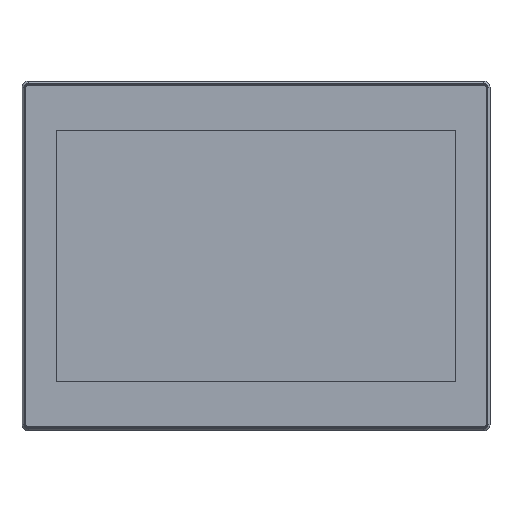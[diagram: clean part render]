
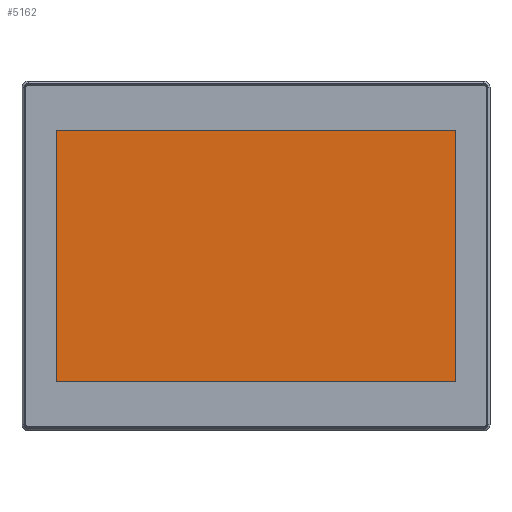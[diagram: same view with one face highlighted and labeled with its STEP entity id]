
A CAD part, top view. The second image highlights one B-rep face of the part: STEP entity #5162.
In plain terms, the highlighted planar face has unit normal (0, 0, 1).
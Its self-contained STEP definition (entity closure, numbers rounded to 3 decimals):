
#5162=ADVANCED_FACE('',(#9222),#6945,.T.);
#6945=PLANE('',#51647);
#9222=FACE_OUTER_BOUND('',#12006,.T.);
#12006=EDGE_LOOP('',(#24189,#24190,#24191,#24192));
#24189=ORIENTED_EDGE('',*,*,#38268,.T.);
#24190=ORIENTED_EDGE('',*,*,#38269,.T.);
#24191=ORIENTED_EDGE('',*,*,#38270,.T.);
#24192=ORIENTED_EDGE('',*,*,#38271,.T.);
#31886=VERTEX_POINT('',#91338);
#31887=VERTEX_POINT('',#91339);
#31888=VERTEX_POINT('',#91341);
#31889=VERTEX_POINT('',#91343);
#38268=EDGE_CURVE('',#31886,#31887,#43285,.T.);
#38269=EDGE_CURVE('',#31887,#31888,#43286,.T.);
#38270=EDGE_CURVE('',#31888,#31889,#43287,.T.);
#38271=EDGE_CURVE('',#31889,#31886,#43288,.T.);
#43285=LINE('',#91337,#47726);
#43286=LINE('',#91340,#47727);
#43287=LINE('',#91342,#47728);
#43288=LINE('',#91344,#47729);
#47726=VECTOR('',#61287,1.);
#47727=VECTOR('',#61288,1.);
#47728=VECTOR('',#61289,1.);
#47729=VECTOR('',#61290,1.);
#51647=AXIS2_PLACEMENT_3D('',#91345,#61291,#61292);
#61287=DIRECTION('',(0.,-1.,0.));
#61288=DIRECTION('',(1.,0.,0.));
#61289=DIRECTION('',(0.,1.,0.));
#61290=DIRECTION('',(-1.,0.,0.));
#61291=DIRECTION('',(0.,0.,1.));
#61292=DIRECTION('',(-1.,0.,0.));
#91337=CARTESIAN_POINT('',(22.54,197.85,64.125));
#91338=CARTESIAN_POINT('',(22.54,197.85,64.125));
#91339=CARTESIAN_POINT('',(22.54,32.65,64.125));
#91340=CARTESIAN_POINT('',(22.54,32.65,64.125));
#91341=CARTESIAN_POINT('',(285.96,32.65,64.125));
#91342=CARTESIAN_POINT('',(285.96,197.85,64.125));
#91343=CARTESIAN_POINT('',(285.96,197.85,64.125));
#91344=CARTESIAN_POINT('',(22.54,197.85,64.125));
#91345=CARTESIAN_POINT('',(154.25,115.25,64.125));
